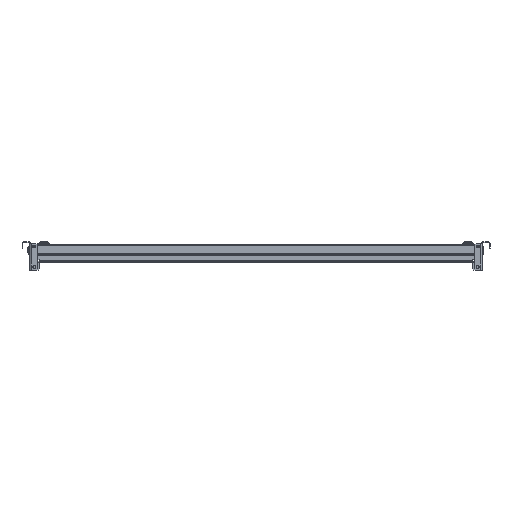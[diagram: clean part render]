
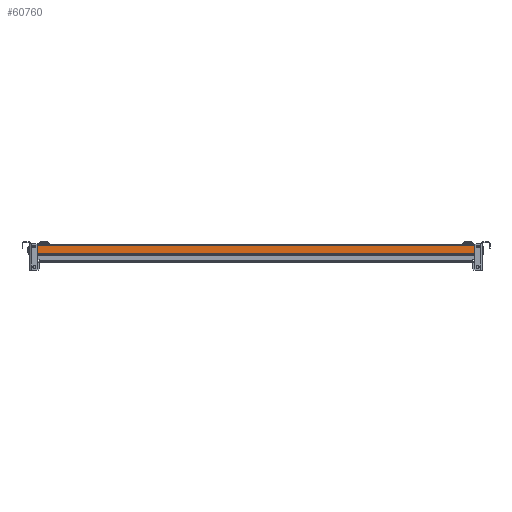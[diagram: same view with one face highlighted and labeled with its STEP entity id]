
A CAD part, left-side view. The second image highlights one B-rep face of the part: STEP entity #60760.
In plain terms, the highlighted planar face has unit normal (-1, 0, 0).
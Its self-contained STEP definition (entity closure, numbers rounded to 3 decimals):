
#25669 = ORIENTED_EDGE ( 'NONE', *, *, #88919, .F. ) ;
#25670 = ORIENTED_EDGE ( 'NONE', *, *, #89244, .T. ) ;
#25671 = ORIENTED_EDGE ( 'NONE', *, *, #89202, .T. ) ;
#25672 = ORIENTED_EDGE ( 'NONE', *, *, #88812, .F. ) ;
#25673 = ORIENTED_EDGE ( 'NONE', *, *, #89602, .T. ) ;
#25674 = ORIENTED_EDGE ( 'NONE', *, *, #89603, .T. ) ;
#25675 = ORIENTED_EDGE ( 'NONE', *, *, #89604, .T. ) ;
#25676 = ORIENTED_EDGE ( 'NONE', *, *, #89281, .T. ) ;
#30173 = LINE ( 'NONE', #30174, #43117 ) ;
#30174 = CARTESIAN_POINT ( 'NONE',  ( -260., 544., 26.25 ) ) ;
#30175 = DIRECTION ( 'NONE',  ( 0., 0., -1. ) ) ;
#30176 = LINE ( 'NONE', #30177, #43118 ) ;
#30177 = CARTESIAN_POINT ( 'NONE',  ( -260., 544., 9.75 ) ) ;
#30178 = DIRECTION ( 'NONE',  ( 0., -0.707, -0.707 ) ) ;
#30179 = LINE ( 'NONE', #30180, #43119 ) ;
#30180 = CARTESIAN_POINT ( 'NONE',  ( -260., 544., 6.75 ) ) ;
#30181 = DIRECTION ( 'NONE',  ( 0., -1., 0. ) ) ;
#41400 = LINE ( 'NONE', #41401, #42674 ) ;
#41401 = CARTESIAN_POINT ( 'NONE',  ( -260., -541., 6.75 ) ) ;
#41402 = DIRECTION ( 'NONE',  ( 0., -0.707, 0.707 ) ) ;
#41527 = LINE ( 'NONE', #41528, #42718 ) ;
#41528 = CARTESIAN_POINT ( 'NONE',  ( -260., -544., 26.25 ) ) ;
#41529 = DIRECTION ( 'NONE',  ( 0., 0., 1. ) ) ;
#41638 = LINE ( 'NONE', #41639, #42755 ) ;
#41639 = CARTESIAN_POINT ( 'NONE',  ( -260., 544., 6.75 ) ) ;
#41640 = DIRECTION ( 'NONE',  ( 0., -1., 0. ) ) ;
#42674 = VECTOR ( 'NONE', #41402, 1000. ) ;
#42718 = VECTOR ( 'NONE', #41529, 1000. ) ;
#42755 = VECTOR ( 'NONE', #41640, 1000. ) ;
#43117 = VECTOR ( 'NONE', #30175, 1000. ) ;
#43118 = VECTOR ( 'NONE', #30178, 1000. ) ;
#43119 = VECTOR ( 'NONE', #30181, 1000. ) ;
#43587 = LINE ( 'NONE', #43588, #48449 ) ;
#43588 = CARTESIAN_POINT ( 'NONE',  ( -260., -539., 6.75 ) ) ;
#43589 = DIRECTION ( 'NONE',  ( 0., 1., 0. ) ) ;
#47448 = LINE ( 'NONE', #47450, #48400 ) ;
#47450 = CARTESIAN_POINT ( 'NONE',  ( -260., -544., 24.75 ) ) ;
#47452 = DIRECTION ( 'NONE',  ( 0., -1., 0. ) ) ;
#48400 = VECTOR ( 'NONE', #47452, 1000. ) ;
#48449 = VECTOR ( 'NONE', #43589, 1000. ) ;
#58547 = VERTEX_POINT ( 'NONE', #83781 ) ;
#58600 = VERTEX_POINT ( 'NONE', #83809 ) ;
#58750 = VERTEX_POINT ( 'NONE', #83909 ) ;
#58924 = VERTEX_POINT ( 'NONE', #83992 ) ;
#58952 = VERTEX_POINT ( 'NONE', #84004 ) ;
#58958 = VERTEX_POINT ( 'NONE', #84007 ) ;
#59135 = VERTEX_POINT ( 'NONE', #84093 ) ;
#59175 = VERTEX_POINT ( 'NONE', #84114 ) ;
#60760 = ADVANCED_FACE ( 'NONE', ( #75383 ), #66113, .F. ) ;
#66113 = PLANE ( 'NONE',  #75388 ) ;
#66114 = CARTESIAN_POINT ( 'NONE',  ( -260., -544., 26.25 ) ) ;
#66115 = DIRECTION ( 'NONE',  ( 1., 0., 0. ) ) ;
#66116 = DIRECTION ( 'NONE',  ( 0., 0., -1. ) ) ;
#75383 = FACE_OUTER_BOUND ( 'NONE', #102899, .T. ) ;
#75388 = AXIS2_PLACEMENT_3D ( 'NONE', #66114, #66115, #66116 ) ;
#83781 = CARTESIAN_POINT ( 'NONE',  ( -260., 544., 24.75 ) ) ;
#83809 = CARTESIAN_POINT ( 'NONE',  ( -260., 539., 6.75 ) ) ;
#83909 = CARTESIAN_POINT ( 'NONE',  ( -260., 544., 9.75 ) ) ;
#83992 = CARTESIAN_POINT ( 'NONE',  ( -260., -544., 24.75 ) ) ;
#84004 = CARTESIAN_POINT ( 'NONE',  ( -260., -544., 9.75 ) ) ;
#84007 = CARTESIAN_POINT ( 'NONE',  ( -260., -541., 6.75 ) ) ;
#84093 = CARTESIAN_POINT ( 'NONE',  ( -260., 541., 6.75 ) ) ;
#84114 = CARTESIAN_POINT ( 'NONE',  ( -260., -539., 6.75 ) ) ;
#88812 = EDGE_CURVE ( 'NONE', #58547, #58924, #47448, .T. ) ;
#88919 = EDGE_CURVE ( 'NONE', #58958, #59175, #43587, .T. ) ;
#89202 = EDGE_CURVE ( 'NONE', #58958, #58952, #41400, .T. ) ;
#89244 = EDGE_CURVE ( 'NONE', #58952, #58924, #41527, .T. ) ;
#89281 = EDGE_CURVE ( 'NONE', #59135, #58600, #41638, .T. ) ;
#89602 = EDGE_CURVE ( 'NONE', #58547, #58750, #30173, .T. ) ;
#89603 = EDGE_CURVE ( 'NONE', #58750, #59135, #30176, .T. ) ;
#89604 = EDGE_CURVE ( 'NONE', #58600, #59175, #30179, .T. ) ;
#102899 = EDGE_LOOP ( 'NONE', ( #25669, #25671, #25670, #25672, #25673, #25674, #25676, #25675 ) ) ;
